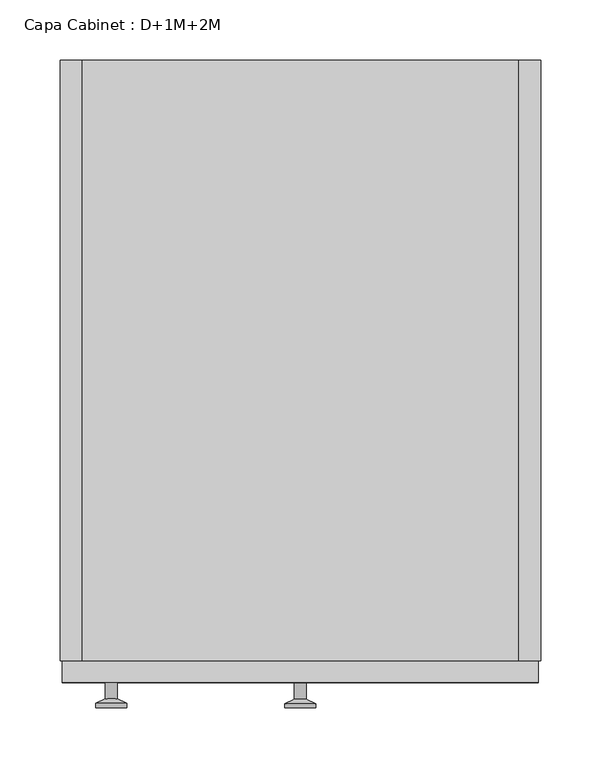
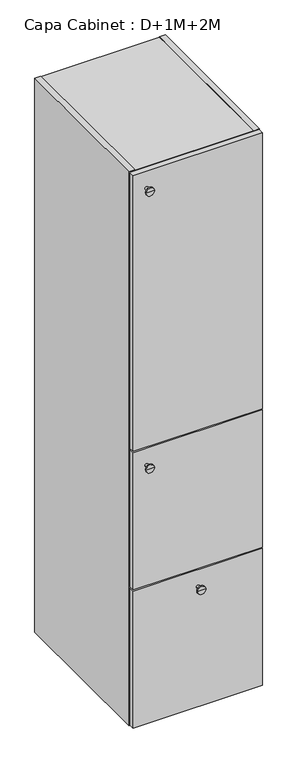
"""IFC4 building model written with IfcOpenShell, lengths in millimetres: furniture geometry, Capa Cabinet : D+1M+2M."""

from ifc_helpers import new_model, si_unit, frame, origin, place, context, project, spatial, polyline, circle_curve, outline, extrude, faceted_brep, source, transform, mapped, element, save
from ifc_brep_helpers import plane_surface, cylinder_surface, revolved_surface, advanced_brep


def capa_cabinet_d_1m_2m_e97a5076(model_context):
    return source(origin(), model_context, "Body", "SolidModel", [
        extrude(outline(polyline([(182.0, 0.0), (-182.0, 0.0), (-182.0, 490.0), (182.0, 490.0), (182.0, 0.0)])), frame((0.0, 0.0, 1337.0), z_axis=(0.0, 0.0, 1.0), x_axis=(1.0, 0.0, 0.0)), (0.0, 0.0, 1.0), 14.0),
        extrude(outline(polyline([(182.0, 0.0), (-182.0, 0.0), (-182.0, 490.0), (182.0, 490.0), (182.0, 0.0)])), frame((0.0, 0.0, 889.0), z_axis=(0.0, 0.0, 1.0), x_axis=(1.0, 0.0, 0.0)), (0.0, 0.0, 1.0), 14.0),
        extrude(outline(polyline([(182.0, 0.0), (-182.0, 0.0), (-182.0, 490.0), (182.0, 490.0), (182.0, 0.0)])), frame((0.0, 0.0, 441.0), z_axis=(0.0, 0.0, 1.0), x_axis=(1.0, 0.0, 0.0)), (0.0, 0.0, 1.0), 14.0),
        faceted_brep([(-182.0, 500.0, 1792.0), (-182.0, 500.0, 1791.0), (182.0, 500.0, 1791.0), (182.0, 500.0, 1792.0), (200.0, 500.0, 1792.0), (200.0, 500.0, 0.0), (182.0, 500.0, 0.0), (182.0, 500.0, 1.0), (-182.0, 500.0, 1.0), (-182.0, 500.0, 0.0), (-200.0, 500.0, 0.0), (-200.0, 500.0, 1792.0), (182.0, 490.0, 19.0), (182.0, 490.0, 1773.0), (-182.0, 490.0, 1773.0), (-182.0, 490.0, 19.0), (-182.0, 0.0, 1792.0), (-200.0, 0.0, 1792.0), (-200.0, 0.0, 0.0), (-182.0, 0.0, 0.0), (-182.0, 0.0, 1.0), (182.0, 0.0, 1.0), (182.0, 0.0, 0.0), (200.0, 0.0, 0.0), (200.0, 0.0, 1792.0), (182.0, 0.0, 1792.0), (182.0, 0.0, 1791.0), (-182.0, 0.0, 1791.0), (182.0, 0.0, 1773.0), (182.0, 0.0, 19.0), (-182.0, 0.0, 19.0), (-182.0, 0.0, 1773.0)], [[[0, 1, 2, 3, 4, 5, 6, 7, 8, 9, 10, 11]], [[12, 13, 14, 15]], [[16, 17, 18, 19, 20, 21, 22, 23, 24, 25, 26, 27], [28, 29, 30, 31]], [[17, 16, 0, 11]], [[18, 17, 11, 10]], [[23, 22, 6, 5]], [[24, 23, 5, 4]], [[19, 18, 10, 9]], [[20, 19, 9, 8]], [[21, 20, 8, 7]], [[22, 21, 7, 6]], [[25, 24, 4, 3]], [[26, 25, 3, 2]], [[27, 26, 2, 1]], [[16, 27, 1, 0]], [[29, 28, 13, 12]], [[30, 29, 12, 15]], [[31, 30, 15, 14]], [[28, 31, 14, 13]]]),
        extrude(outline(polyline([(198.0, -18.0), (-198.0, -18.0), (-198.0, 0.0), (198.0, 0.0), (198.0, -18.0)])), frame((0.0, 0.0, 2.0), z_axis=(0.0, 0.0, 1.0), x_axis=(1.0, 0.0, 0.0)), (0.0, 0.0, 1.0), 444.0),
        advanced_brep(
        [(0.0, -18.0, 392.0), (5.0, -18.0, 392.0), (-5.0, -18.0, 392.0), (-13.0, -38.997134, 392.0), (13.0, -38.997134, 392.0), (0.0, -38.997134, 392.0), (-13.0, -35.5419417, 392.0), (13.0, -35.5419417, 392.0), (-5.0, -31.8114804, 392.0), (5.0, -31.8114804, 392.0)],
        [
            (0, 1),
            (1, 2, circle_curve(frame((0.0, -18.0, 392.0), z_axis=(0.0, 1.0, 0.0), x_axis=(1.0, 0.0, 0.0)), 5.0)),
            (2, 0),
            (2, 1, circle_curve(frame((0.0, -18.0, 392.0), z_axis=(0.0, 1.0, 0.0), x_axis=(1.0, 0.0, 0.0)), 5.0)),
            (3, 4, circle_curve(frame((0.0, -38.997134, 392.0), z_axis=(0.0, -1.0, 0.0), x_axis=(1.0, 0.0, 0.0)), 13.0)),
            (4, 5),
            (5, 3),
            (4, 3, circle_curve(frame((0.0, -38.997134, 392.0), z_axis=(0.0, -1.0, 0.0), x_axis=(1.0, 0.0, 0.0)), 13.0)),
            (6, 7, circle_curve(frame((0.0, -35.5419417, 392.0), z_axis=(0.0, -1.0, 0.0), x_axis=(1.0, 0.0, 0.0)), 13.0)),
            (7, 4),
            (3, 6),
            (7, 6, circle_curve(frame((0.0, -35.5419417, 392.0), z_axis=(0.0, -1.0, 0.0), x_axis=(1.0, 0.0, 0.0)), 13.0)),
            (8, 9, circle_curve(frame((0.0, -31.8114804, 392.0), z_axis=(0.0, -1.0, 0.0), x_axis=(1.0, 0.0, 0.0)), 5.0)),
            (9, 7),
            (6, 8),
            (9, 8, circle_curve(frame((0.0, -31.8114804, 392.0), z_axis=(0.0, -1.0, 0.0), x_axis=(1.0, 0.0, 0.0)), 5.0)),
            (1, 9),
            (8, 2),
        ],
        [
            plane_surface(frame((0.0, -18.0, 392.0), z_axis=(0.0, 1.0, 0.0), x_axis=(1.0, 0.0, 0.0))),
            plane_surface(frame((0.0, -38.997134, 392.0), z_axis=(0.0, -1.0, 0.0), x_axis=(1.0, 0.0, 0.0))),
            cylinder_surface(frame((0.0, -38.997134, 392.0), z_axis=(0.0, 1.0, 0.0), x_axis=(1.0, 0.0, 0.0)), 13.0),
            revolved_surface(polyline([(13.0, -35.5419417, 392.0), (5.0, -31.8114804, 392.0)]), (0.0, -38.997134, 392.0), (0.0, 1.0, 0.0)),
            cylinder_surface(frame((0.0, -38.997134, 392.0), z_axis=(0.0, 1.0, 0.0), x_axis=(1.0, 0.0, 0.0)), 5.0),
        ],
        [
            (0, [[1, 2, 3]]),
            (0, [[-3, 4, -1]]),
            (1, [[5, 6, 7]]),
            (1, [[8, -7, -6]]),
            (2, [[9, 10, -5, 11]]),
            (2, [[12, -11, -8, -10]]),
            (3, [[13, 14, -9, 15]]),
            (3, [[16, -15, -12, -14]]),
            (4, [[-2, 17, -13, 18]]),
            (4, [[-4, -18, -16, -17]]),
        ],
    ),
        extrude(outline(polyline([(198.0, -18.0), (-198.0, -18.0), (-198.0, 0.0), (198.0, 0.0), (198.0, -18.0)])), frame((0.0, 0.0, 898.0), z_axis=(0.0, 0.0, 1.0), x_axis=(1.0, 0.0, 0.0)), (0.0, 0.0, 1.0), 892.0),
        advanced_brep(
        [(-157.2922597, -18.0, 1736.0), (-152.2922597, -18.0, 1736.0), (-162.2922597, -18.0, 1736.0), (-170.2922597, -38.997134, 1736.0), (-144.2922597, -38.997134, 1736.0), (-157.2922597, -38.997134, 1736.0), (-170.2922597, -35.5419417, 1736.0), (-144.2922597, -35.5419417, 1736.0), (-162.2922597, -31.8114804, 1736.0), (-152.2922597, -31.8114804, 1736.0)],
        [
            (0, 1),
            (1, 2, circle_curve(frame((-157.2922597, -18.0, 1736.0), z_axis=(0.0, 1.0, 0.0), x_axis=(1.0, 0.0, 0.0)), 5.0)),
            (2, 0),
            (2, 1, circle_curve(frame((-157.2922597, -18.0, 1736.0), z_axis=(0.0, 1.0, 0.0), x_axis=(1.0, 0.0, 0.0)), 5.0)),
            (3, 4, circle_curve(frame((-157.2922597, -38.997134, 1736.0), z_axis=(0.0, -1.0, 0.0), x_axis=(1.0, 0.0, 0.0)), 13.0)),
            (4, 5),
            (5, 3),
            (4, 3, circle_curve(frame((-157.2922597, -38.997134, 1736.0), z_axis=(0.0, -1.0, 0.0), x_axis=(1.0, 0.0, 0.0)), 13.0)),
            (6, 7, circle_curve(frame((-157.2922597, -35.5419417, 1736.0), z_axis=(0.0, -1.0, 0.0), x_axis=(1.0, 0.0, 0.0)), 13.0)),
            (7, 4),
            (3, 6),
            (7, 6, circle_curve(frame((-157.2922597, -35.5419417, 1736.0), z_axis=(0.0, -1.0, 0.0), x_axis=(1.0, 0.0, 0.0)), 13.0)),
            (8, 9, circle_curve(frame((-157.2922597, -31.8114804, 1736.0), z_axis=(0.0, -1.0, 0.0), x_axis=(1.0, 0.0, 0.0)), 5.0)),
            (9, 7),
            (6, 8),
            (9, 8, circle_curve(frame((-157.2922597, -31.8114804, 1736.0), z_axis=(0.0, -1.0, 0.0), x_axis=(1.0, 0.0, 0.0)), 5.0)),
            (1, 9),
            (8, 2),
        ],
        [
            plane_surface(frame((-157.2922597, -18.0, 1736.0), z_axis=(0.0, 1.0, 0.0), x_axis=(1.0, 0.0, 0.0))),
            plane_surface(frame((-157.2922597, -38.997134, 1736.0), z_axis=(0.0, -1.0, 0.0), x_axis=(1.0, 0.0, 0.0))),
            cylinder_surface(frame((-157.2922597, -38.997134, 1736.0), z_axis=(0.0, 1.0, 0.0), x_axis=(1.0, 0.0, 0.0)), 13.0),
            revolved_surface(polyline([(-144.2922597, -35.5419417, 1736.0), (-152.2922597, -31.8114804, 1736.0)]), (-157.2922597, -38.997134, 1736.0), (0.0, 1.0, 0.0)),
            cylinder_surface(frame((-157.2922597, -38.997134, 1736.0), z_axis=(0.0, 1.0, 0.0), x_axis=(1.0, 0.0, 0.0)), 5.0),
        ],
        [
            (0, [[1, 2, 3]]),
            (0, [[-3, 4, -1]]),
            (1, [[5, 6, 7]]),
            (1, [[8, -7, -6]]),
            (2, [[9, 10, -5, 11]]),
            (2, [[12, -11, -8, -10]]),
            (3, [[13, 14, -9, 15]]),
            (3, [[16, -15, -12, -14]]),
            (4, [[-2, 17, -13, 18]]),
            (4, [[-4, -18, -16, -17]]),
        ],
    ),
        extrude(outline(polyline([(198.0, -18.0), (-198.0, -18.0), (-198.0, 0.0), (198.0, 0.0), (198.0, -18.0)])), frame((0.0, 0.0, 450.0), z_axis=(0.0, 0.0, 1.0), x_axis=(1.0, 0.0, 0.0)), (0.0, 0.0, 1.0), 444.0),
        advanced_brep(
        [(-157.2922597, -18.0, 840.0), (-152.2922597, -18.0, 840.0), (-162.2922597, -18.0, 840.0), (-170.2922597, -38.997134, 840.0), (-144.2922597, -38.997134, 840.0), (-157.2922597, -38.997134, 840.0), (-170.2922597, -35.5419417, 840.0), (-144.2922597, -35.5419417, 840.0), (-162.2922597, -31.8114804, 840.0), (-152.2922597, -31.8114804, 840.0)],
        [
            (0, 1),
            (1, 2, circle_curve(frame((-157.2922597, -18.0, 840.0), z_axis=(0.0, 1.0, 0.0), x_axis=(1.0, 0.0, 0.0)), 5.0)),
            (2, 0),
            (2, 1, circle_curve(frame((-157.2922597, -18.0, 840.0), z_axis=(0.0, 1.0, 0.0), x_axis=(1.0, 0.0, 0.0)), 5.0)),
            (3, 4, circle_curve(frame((-157.2922597, -38.997134, 840.0), z_axis=(0.0, -1.0, 0.0), x_axis=(1.0, 0.0, 0.0)), 13.0)),
            (4, 5),
            (5, 3),
            (4, 3, circle_curve(frame((-157.2922597, -38.997134, 840.0), z_axis=(0.0, -1.0, 0.0), x_axis=(1.0, 0.0, 0.0)), 13.0)),
            (6, 7, circle_curve(frame((-157.2922597, -35.5419417, 840.0), z_axis=(0.0, -1.0, 0.0), x_axis=(1.0, 0.0, 0.0)), 13.0)),
            (7, 4),
            (3, 6),
            (7, 6, circle_curve(frame((-157.2922597, -35.5419417, 840.0), z_axis=(0.0, -1.0, 0.0), x_axis=(1.0, 0.0, 0.0)), 13.0)),
            (8, 9, circle_curve(frame((-157.2922597, -31.8114804, 840.0), z_axis=(0.0, -1.0, 0.0), x_axis=(1.0, 0.0, 0.0)), 5.0)),
            (9, 7),
            (6, 8),
            (9, 8, circle_curve(frame((-157.2922597, -31.8114804, 840.0), z_axis=(0.0, -1.0, 0.0), x_axis=(1.0, 0.0, 0.0)), 5.0)),
            (1, 9),
            (8, 2),
        ],
        [
            plane_surface(frame((-157.2922597, -18.0, 840.0), z_axis=(0.0, 1.0, 0.0), x_axis=(1.0, 0.0, 0.0))),
            plane_surface(frame((-157.2922597, -38.997134, 840.0), z_axis=(0.0, -1.0, 0.0), x_axis=(1.0, 0.0, 0.0))),
            cylinder_surface(frame((-157.2922597, -38.997134, 840.0), z_axis=(0.0, 1.0, 0.0), x_axis=(1.0, 0.0, 0.0)), 13.0),
            revolved_surface(polyline([(-144.2922597, -35.5419417, 840.0), (-152.2922597, -31.8114804, 840.0)]), (-157.2922597, -38.997134, 840.0), (0.0, 1.0, 0.0)),
            cylinder_surface(frame((-157.2922597, -38.997134, 840.0), z_axis=(0.0, 1.0, 0.0), x_axis=(1.0, 0.0, 0.0)), 5.0),
        ],
        [
            (0, [[1, 2, 3]]),
            (0, [[-3, 4, -1]]),
            (1, [[5, 6, 7]]),
            (1, [[8, -7, -6]]),
            (2, [[9, 10, -5, 11]]),
            (2, [[12, -11, -8, -10]]),
            (3, [[13, 14, -9, 15]]),
            (3, [[16, -15, -12, -14]]),
            (4, [[-2, 17, -13, 18]]),
            (4, [[-4, -18, -16, -17]]),
        ],
    ),
    ])


if __name__ == "__main__":
    model = new_model("IFC4")
    model_context = context("Model", 3, world=origin())
    ifc_project = project(units=[si_unit("LENGTHUNIT", "METRE", prefix="MILLI")], contexts=[model_context])
    site = spatial("IfcSite", under=ifc_project)
    building = spatial("IfcBuilding", under=site)
    placement = place(None, origin())
    capa_cabinet_d_1m_2m_shape = capa_cabinet_d_1m_2m_e97a5076(model_context)
    element("IfcFurniture", 1, ObjectType="Capa Cabinet : D+1M+2M", at=placement, inside=building, context=model_context, shape_type="MappedRepresentation", body=[
        mapped(capa_cabinet_d_1m_2m_shape, transform((0.0, 0.0, 0.0), x_axis=(1.0, 0.0, 0.0), y_axis=(0.0, 1.0, 0.0), z_axis=(0.0, 0.0, 1.0))),
    ])
    save(model, "model.ifc")
